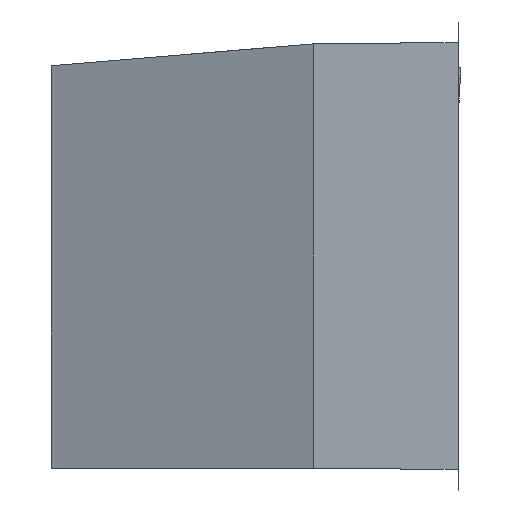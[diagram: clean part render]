
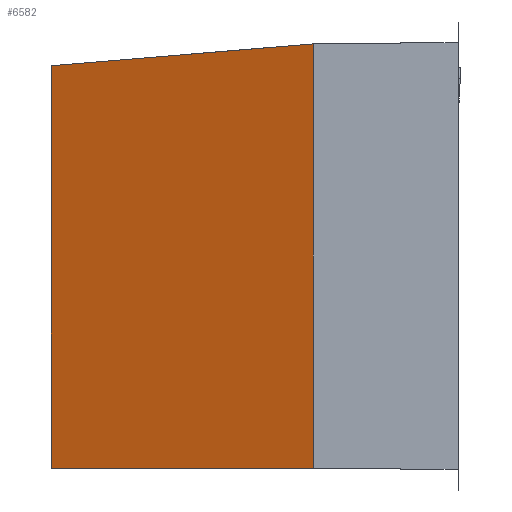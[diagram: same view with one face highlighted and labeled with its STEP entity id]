
A CAD part, left-side view. The second image highlights one B-rep face of the part: STEP entity #6582.
In plain terms, the highlighted planar face has unit normal (-0.94, 0.342, 0).
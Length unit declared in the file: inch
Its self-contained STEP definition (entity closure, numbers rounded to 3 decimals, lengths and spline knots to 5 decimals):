
#423=DIRECTION('',(-0.342,-0.94,0.));
#424=VECTOR('',#423,9.57772);
#425=CARTESIAN_POINT('',(-19.91141,14.,0.));
#426=LINE('',#425,#424);
#451=DIRECTION('',(0.,0.,1.));
#452=VECTOR('',#451,13.815);
#453=CARTESIAN_POINT('',(-19.91141,14.,0.));
#454=LINE('',#453,#452);
#549=DIRECTION('',(-0.341,-0.937,0.078));
#550=VECTOR('',#549,9.60704);
#551=CARTESIAN_POINT('',(-19.91141,14.,13.815));
#552=LINE('',#551,#550);
#612=DIRECTION('',(0.,0.,-1.));
#613=VECTOR('',#612,14.565);
#614=CARTESIAN_POINT('',(-23.1875,5.,14.565));
#615=LINE('',#614,#613);
#5454=CARTESIAN_POINT('',(-19.91141,14.,0.));
#5455=CARTESIAN_POINT('',(-23.1875,5.,0.));
#5456=VERTEX_POINT('',#5454);
#5457=VERTEX_POINT('',#5455);
#5458=CARTESIAN_POINT('',(-19.91141,14.,13.815));
#5459=VERTEX_POINT('',#5458);
#5460=CARTESIAN_POINT('',(-23.1875,5.,14.565));
#5461=VERTEX_POINT('',#5460);
#6571=CARTESIAN_POINT('',(-19.91141,14.,0.));
#6572=DIRECTION('',(-0.94,0.342,0.));
#6573=DIRECTION('',(-0.342,-0.94,0.));
#6574=AXIS2_PLACEMENT_3D('',#6571,#6572,#6573);
#6575=PLANE('',#6574);
#6576=ORIENTED_EDGE('',*,*,#6404,.F.);
#6577=ORIENTED_EDGE('',*,*,#6424,.T.);
#6578=ORIENTED_EDGE('',*,*,#6507,.T.);
#6579=ORIENTED_EDGE('',*,*,#6563,.T.);
#6580=EDGE_LOOP('',(#6576,#6577,#6578,#6579));
#6581=FACE_OUTER_BOUND('',#6580,.F.);
#6582=ADVANCED_FACE('',(#6581),#6575,.T.);
#6404=EDGE_CURVE('',#5456,#5457,#426,.T.);
#6424=EDGE_CURVE('',#5456,#5459,#454,.T.);
#6507=EDGE_CURVE('',#5459,#5461,#552,.T.);
#6563=EDGE_CURVE('',#5461,#5457,#615,.T.);
